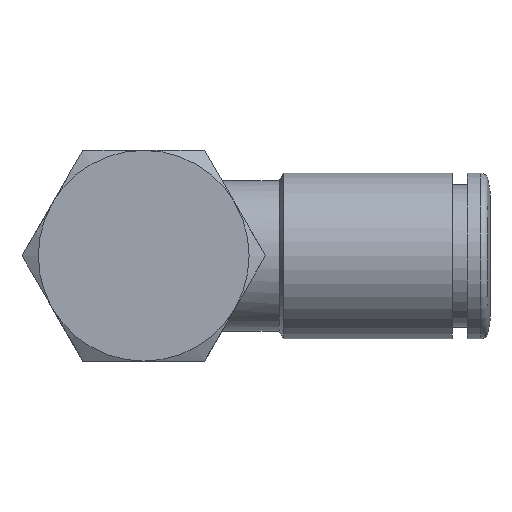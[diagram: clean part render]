
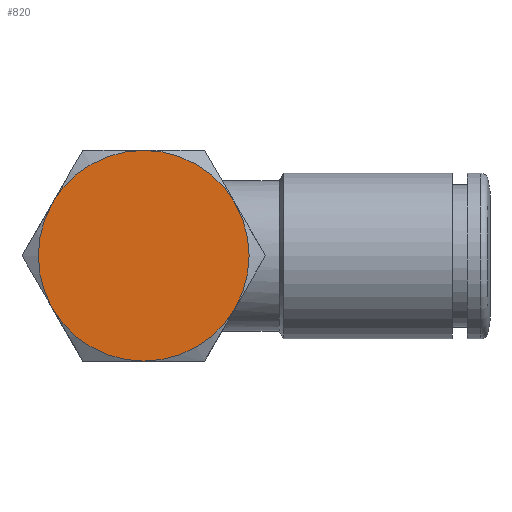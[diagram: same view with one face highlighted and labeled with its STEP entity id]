
A CAD part, top view. The second image highlights one B-rep face of the part: STEP entity #820.
In plain terms, the highlighted planar face has unit normal (0, 0, 1).
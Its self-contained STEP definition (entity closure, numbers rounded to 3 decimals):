
#820=ADVANCED_FACE('', (#830), #840, .T.);
#4590=AXIS2_PLACEMENT_3D('Ax2Pl3d', #4600, #4610, #4620);
#4670=AXIS2_PLACEMENT_3D('Ax2Pl3d', #4680, #4690, #4700);
#4750=AXIS2_PLACEMENT_3D('Ax2Pl3d', #4760, #4770, #4780);
#4830=AXIS2_PLACEMENT_3D('Ax2Pl3d', #4840, #4850, #4860);
#4910=AXIS2_PLACEMENT_3D('Ax2Pl3d', #4920, #4930, #4940);
#4990=AXIS2_PLACEMENT_3D('Ax2Pl3d', #5000, #5010, #5020);
#5030=AXIS2_PLACEMENT_3D('Ax2Pl3d', #5040, #5050, #5060);
#52220=CARTESIAN_POINT('', (8.188,12.733,31.415));
#52400=CARTESIAN_POINT('', (14.25,16.233,31.415));
#52430=CARTESIAN_POINT('', (20.312,12.733,31.415));
#52460=CARTESIAN_POINT('', (20.312,5.733,31.415));
#52490=CARTESIAN_POINT('', (14.25,2.233,31.415));
#52520=CARTESIAN_POINT('', (8.188,5.733,31.415));
#4600=CARTESIAN_POINT('HicPkt', (14.25,9.233,
31.415));
#4680=CARTESIAN_POINT('HicPkt', (14.25,9.233,
31.415));
#4760=CARTESIAN_POINT('HicPkt', (14.25,9.233,
31.415));
#4840=CARTESIAN_POINT('HicPkt', (14.25,9.233,
31.415));
#4920=CARTESIAN_POINT('HicPkt', (14.25,9.233,
31.415));
#5000=CARTESIAN_POINT('HicPkt', (14.25,9.233,
31.415));
#5040=CARTESIAN_POINT('HicPkt', (20.312,5.733,
31.415));
#53500=CIRCLE('Circle', #4590, 7.);
#53510=CIRCLE('Circle', #4670, 7.);
#53520=CIRCLE('Circle', #4750, 7.);
#53530=CIRCLE('Circle', #4830, 7.);
#53540=CIRCLE('Circle', #4910, 7.);
#53550=CIRCLE('Circle', #4990, 7.);
#4610=DIRECTION('Axis', (0.,0.,-1.));
#4620=DIRECTION('RefDirection', (-1.,-0.,0.));
#4690=DIRECTION('Axis', (0.,0.,-1.));
#4700=DIRECTION('RefDirection', (-1.,-0.,0.));
#4770=DIRECTION('Axis', (0.,0.,-1.));
#4780=DIRECTION('RefDirection', (-1.,-0.,0.));
#4850=DIRECTION('Axis', (0.,0.,-1.));
#4860=DIRECTION('RefDirection', (-1.,-0.,0.));
#4930=DIRECTION('Axis', (0.,0.,-1.));
#4940=DIRECTION('RefDirection', (-1.,-0.,0.));
#5010=DIRECTION('Axis', (0.,0.,-1.));
#5020=DIRECTION('RefDirection', (-1.,-0.,0.));
#5050=DIRECTION('Axis', (0.,0.,1.));
#5060=DIRECTION('RefDirection', (1.,0.,-0.));
#59380=EDGE_CURVE('', #59360, #58830, #53500, .T.);
#59390=EDGE_CURVE('', #58830, #59120, #53510, .T.);
#59400=EDGE_CURVE('', #59120, #59180, #53520, .T.);
#59410=EDGE_CURVE('', #59180, #59240, #53530, .T.);
#59420=EDGE_CURVE('', #59240, #59300, #53540, .T.);
#59430=EDGE_CURVE('', #59300, #59360, #53550, .T.);
#62170=EDGE_LOOP('Edge_loop', (#62180,#62190,#62200,#62210,#62220,
#62230));
#830=FACE_OUTER_BOUND('Face_outer_bound', #62170, .T.);
#62180=ORIENTED_EDGE('', *, *, #59420, .F.);
#62190=ORIENTED_EDGE('', *, *, #59410, .F.);
#62200=ORIENTED_EDGE('', *, *, #59400, .F.);
#62210=ORIENTED_EDGE('', *, *, #59390, .F.);
#62220=ORIENTED_EDGE('', *, *, #59380, .F.);
#62230=ORIENTED_EDGE('', *, *, #59430, .F.);
#840=PLANE('Plane', #5030);
#58830=VERTEX_POINT('', #52220);
#59120=VERTEX_POINT('', #52400);
#59180=VERTEX_POINT('', #52430);
#59240=VERTEX_POINT('', #52460);
#59300=VERTEX_POINT('', #52490);
#59360=VERTEX_POINT('', #52520);
